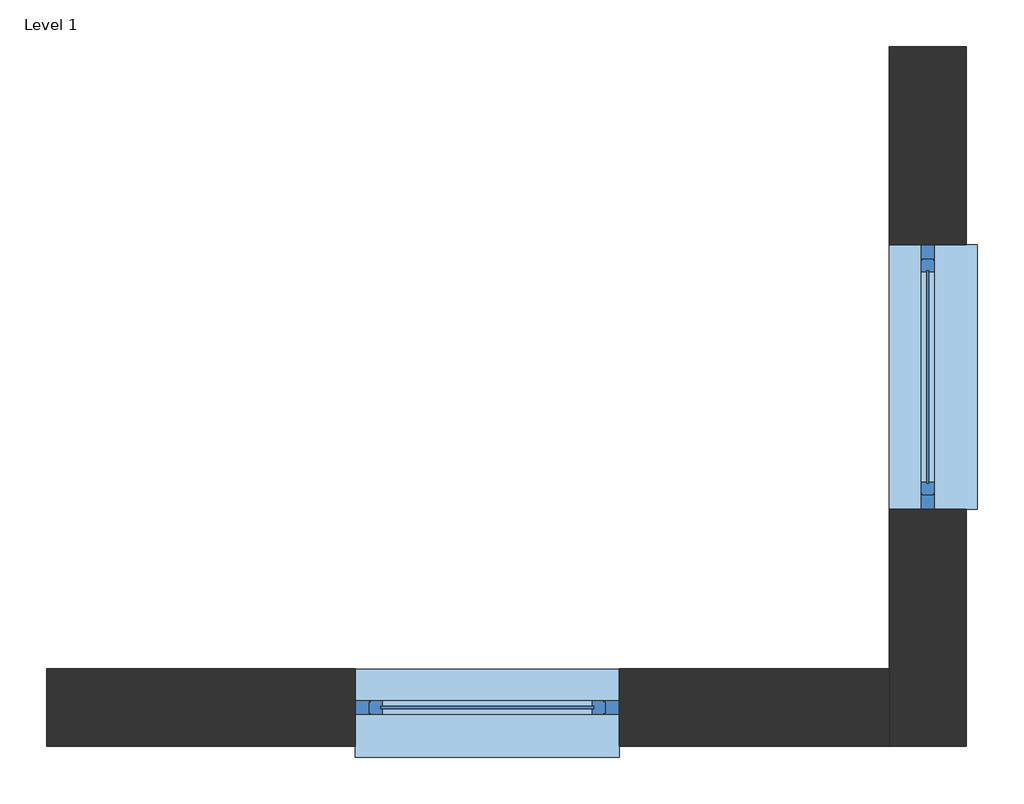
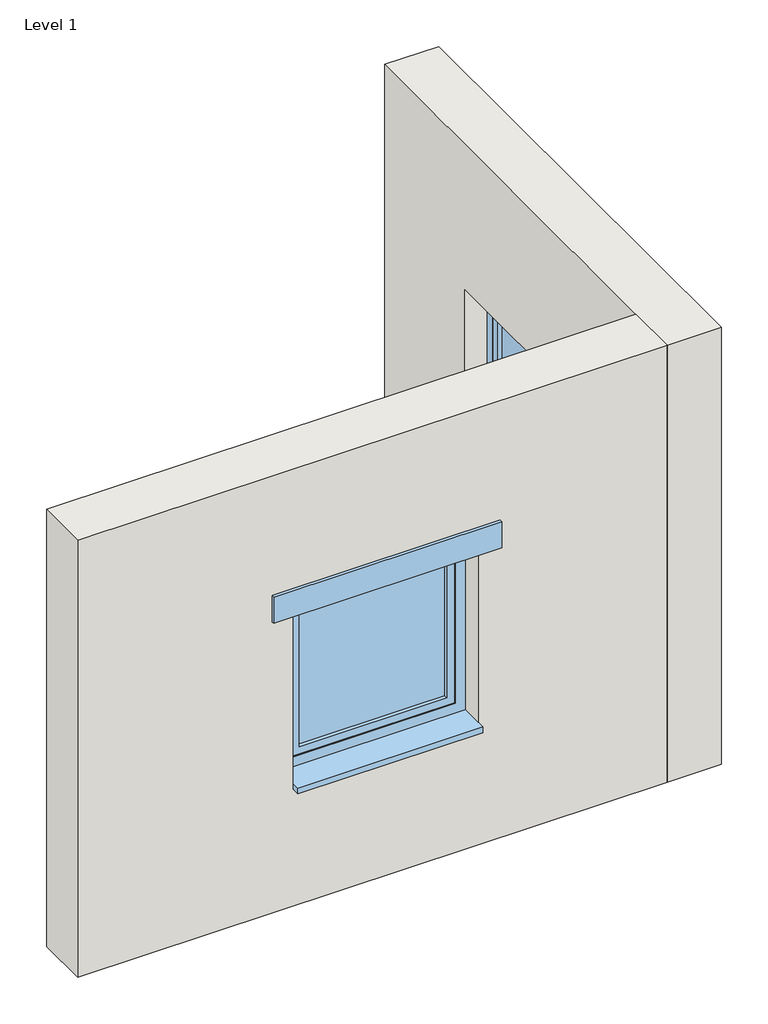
# One storey: 2 walls, 2 windows.
"""IFC4 building model written with IfcOpenShell, lengths in millimetres."""

import ifcopenshell
import ifcopenshell.guid

model = None  # the IFC model being written
_history = None  # IfcOwnerHistory: only IFC2X3 demands one
_inside = {}  # id of a spatial element -> (the spatial element, [elements in it])
_under = {}  # id of a project, library or spatial element -> (it, [spatial elements below it])
_declared = {}  # id of a project -> (the project, [libraries it declares])
_typed = {}  # id of a type object -> (the type object, [elements of that type])
_made_of = {}  # id of a material, layer set ... -> (it, [elements and type objects made of it])


def new_model(schema):
    """Start an empty IFC model of exactly this schema.

    Asked for "IFC4X3", IfcOpenShell would pick the latest addendum, in which some entities
    have other attributes; the version numbers below select the first issue.
    IFC2X3 requires an IfcOwnerHistory on every rooted entity: one is made here for all.
    """
    global model, _history
    if schema == "IFC4X3":
        model = ifcopenshell.file(schema_version=(4, 3, 0, 0))
    else:
        model = ifcopenshell.file(schema=schema)
    _inside.clear()
    _under.clear()
    _declared.clear()
    _typed.clear()
    _made_of.clear()
    _history = None
    if model.schema == "IFC2X3":
        org = make("IfcOrganization", Name="unknown")
        user = make(
            "IfcPersonAndOrganization",
            ThePerson=make("IfcPerson", FamilyName="unknown"),
            TheOrganization=org,
        )
        app = make(
            "IfcApplication",
            ApplicationDeveloper=org,
            Version="unknown",
            ApplicationFullName="unknown",
            ApplicationIdentifier="unknown",
        )
        _history = make(
            "IfcOwnerHistory",
            OwningUser=user,
            OwningApplication=app,
            ChangeAction="ADDED",
            CreationDate=0,
        )
    return model


def make(cls, **values):
    """One entity of the class cls with the attributes given. An attribute that is None is left unset."""
    return model.create_entity(
        cls, **{name: value for name, value in values.items() if value is not None}
    )


def rooted(cls, **values):
    """An entity with a GlobalId (a new one), such as an element, a storey or a relation."""
    return make(cls, GlobalId=ifcopenshell.guid.new(), OwnerHistory=_history, **values)


def si_unit(unit_type, name, prefix=None):
    """IfcSIUnit, for example si_unit("LENGTHUNIT", "METRE", prefix="MILLI")."""
    return make("IfcSIUnit", UnitType=unit_type, Prefix=prefix, Name=name)


def assignment(units):
    """IfcUnitAssignment: the units of a project."""
    return None if units is None else make("IfcUnitAssignment", Units=units)


def point(xyz):
    """IfcCartesianPoint."""
    return None if xyz is None else make("IfcCartesianPoint", Coordinates=xyz)


def direction(xyz):
    """IfcDirection."""
    return None if xyz is None else make("IfcDirection", DirectionRatios=xyz)


def frame(location, z_axis=None, x_axis=None):
    """IfcAxis2Placement3D, a coordinate frame: its origin and axes. An axis left out is left unset."""
    return make(
        "IfcAxis2Placement3D",
        Location=point(location),
        Axis=direction(z_axis),
        RefDirection=direction(x_axis),
    )


def origin():
    """The frame at (0, 0, 0) with its axes left unset."""
    return frame((0.0, 0.0, 0.0))


def place(relative_to, where):
    """IfcLocalPlacement: puts the frame where relative to a parent placement (None: the world)."""
    return make(
        "IfcLocalPlacement", PlacementRelTo=relative_to, RelativePlacement=where
    )


def context(
    kind, dimensions, precision=None, world=None, true_north=None, identifier=None
):
    """IfcGeometricRepresentationContext, for example the 3D "Model" context."""
    return make(
        "IfcGeometricRepresentationContext",
        ContextIdentifier=identifier,
        ContextType=kind,
        CoordinateSpaceDimension=dimensions,
        Precision=precision,
        WorldCoordinateSystem=world,
        TrueNorth=true_north,
    )


def project(units=None, contexts=None):
    """IfcProject with its units and contexts."""
    return rooted(
        "IfcProject",
        Name="project",
        RepresentationContexts=contexts,
        UnitsInContext=assignment(units),
    )


def spatial(cls, under=None, at=None, **own):
    """A site, building, storey or space (cls), placed at a placement, below another one or the project."""
    s = rooted(cls, ObjectPlacement=at, **own)
    if under is not None:
        _under.setdefault(under.id(), (under, []))[1].append(s)
    return s


def polyline(points):
    """IfcPolyline through the points."""
    return make("IfcPolyline", Points=[point(p) for p in points])


def outline(outer, holes=None, kind="AREA"):
    """IfcArbitraryClosedProfileDef: a profile drawn as a closed curve; with holes, ...WithVoids."""
    if holes is None:
        return make("IfcArbitraryClosedProfileDef", ProfileType=kind, OuterCurve=outer)
    return make(
        "IfcArbitraryProfileDefWithVoids",
        ProfileType=kind,
        OuterCurve=outer,
        InnerCurves=holes,
    )


def extrude(swept, where, along, depth):
    """IfcExtrudedAreaSolid: the profile swept, set in the frame where, extruded along a direction by depth."""
    return make(
        "IfcExtrudedAreaSolid",
        SweptArea=swept,
        Position=where,
        ExtrudedDirection=direction(along),
        Depth=depth,
    )


def faces_of(points, faces, orient=None, outer=None):
    """IfcFace entities. A face is a list of loops; a loop is a list of indices into points, from 0.

    orient and outer hold one flag for each loop. By default every Orientation is true, the
    first loop of a face is its IfcFaceOuterBound and the others are IfcFaceBound.
    """
    made = []
    for i, loops in enumerate(faces):
        bounds = []
        for j, loop in enumerate(loops):
            is_outer = j == 0 if outer is None else outer[i][j]
            bounds.append(
                make(
                    "IfcFaceOuterBound" if is_outer else "IfcFaceBound",
                    Bound=make("IfcPolyLoop", Polygon=[points[k] for k in loop]),
                    Orientation=True if orient is None else orient[i][j],
                )
            )
        made.append(make("IfcFace", Bounds=bounds))
    return made


def faceted_brep(points, faces, orient=None, outer=None, voids=None):
    """IfcFacetedBrep: a solid bounded by flat faces; with voids (closed shells), ...WithVoids."""
    shared = [point(p) for p in points]
    hull = make("IfcClosedShell", CfsFaces=faces_of(shared, faces, orient, outer))
    if voids is None:
        return make("IfcFacetedBrep", Outer=hull)
    return make(
        "IfcFacetedBrepWithVoids",
        Outer=hull,
        Voids=[
            make(cls, CfsFaces=faces_of(shared, fs, o, b)) for cls, fs, o, b in voids
        ],
    )


def shape(context_of_items, identifier, shape_type, items):
    """IfcShapeRepresentation: the items that make up one representation, for example the "Body"."""
    return make(
        "IfcShapeRepresentation",
        ContextOfItems=context_of_items,
        RepresentationIdentifier=identifier,
        RepresentationType=shape_type,
        Items=items,
    )


def source(mapping_origin, context_of_items, identifier, shape_type, items):
    """IfcRepresentationMap: a shape defined once, which mapped items show again and again."""
    return make(
        "IfcRepresentationMap",
        MappingOrigin=mapping_origin,
        MappedRepresentation=shape(context_of_items, identifier, shape_type, items),
    )


def transform(
    local_origin,
    x_axis=None,
    y_axis=None,
    z_axis=None,
    scale=None,
    scale2=None,
    scale3=None,
    uniform=True,
):
    """IfcCartesianTransformationOperator3D, or its non-uniform kind. x_axis, y_axis, z_axis: its Axis1, 2, 3."""
    if uniform:
        return make(
            "IfcCartesianTransformationOperator3D",
            Axis1=direction(x_axis),
            Axis2=direction(y_axis),
            LocalOrigin=point(local_origin),
            Scale=scale,
            Axis3=direction(z_axis),
        )
    return make(
        "IfcCartesianTransformationOperator3DnonUniform",
        Axis1=direction(x_axis),
        Axis2=direction(y_axis),
        LocalOrigin=point(local_origin),
        Scale=scale,
        Axis3=direction(z_axis),
        Scale2=scale2,
        Scale3=scale3,
    )


def mapped(mapping_source, mapping_target):
    """IfcMappedItem: shows the shape of a source again, moved by a transform."""
    return make(
        "IfcMappedItem", MappingSource=mapping_source, MappingTarget=mapping_target
    )


def made_of(thing, what):
    """Note that an element or type object is made of a material, layer set ...; save() writes the relation."""
    if what is not None:
        _made_of.setdefault(what.id(), (what, []))[1].append(thing)
    return thing


def element(
    cls,
    number,
    at=None,
    inside=None,
    cuts=None,
    type_object=None,
    material=None,
    context=None,
    identifier="Body",
    shape_type=None,
    held_by="IfcProductDefinitionShape",
    body=None,
    shapes=None,
    **own,
):
    """One element of the class cls, such as IfcWall. Its Tag is "e" and its number.

    at: its placement. inside: the storey or other place that contains it. cuts: it is an
    opening in that element (IfcRelVoidsElement). A single representation is given by context,
    identifier, shape_type and body (its items); several are given by shapes. held_by: the class
    of the entity that holds the representations. save() writes the other relations.
    """
    e = rooted(cls, Tag="e%d" % number, ObjectPlacement=at, **own)
    if body is not None:
        shapes = [shape(context, identifier, shape_type, body)]
    if shapes is not None:
        e.Representation = make(held_by, Representations=shapes)
    if inside is not None:
        _inside.setdefault(inside.id(), (inside, []))[1].append(e)
    if cuts is not None:
        rooted(
            "IfcRelVoidsElement", RelatingBuildingElement=cuts, RelatedOpeningElement=e
        )
    if type_object is not None:
        _typed.setdefault(type_object.id(), (type_object, []))[1].append(e)
    return made_of(e, material)


def aggregate(whole, parts):
    """IfcRelAggregates: a whole, such as a stair, and the parts it consists of."""
    return rooted("IfcRelAggregates", RelatingObject=whole, RelatedObjects=parts)


def save(model, path):
    """Write the relations noted so far, then the file.

    IfcRelAggregates (storeys below a building ...), IfcRelContainedInSpatialStructure (elements
    in a storey), IfcRelDefinesByType, IfcRelAssociatesMaterial and IfcRelDeclares: one each for
    every whole, place, type object, material and project.
    """
    for whole, parts in _under.values():
        aggregate(whole, parts)
    for where, things in _inside.values():
        rooted(
            "IfcRelContainedInSpatialStructure",
            RelatedElements=things,
            RelatingStructure=where,
        )
    for kind, things in _typed.values():
        rooted("IfcRelDefinesByType", RelatedObjects=things, RelatingType=kind)
    for what, things in _made_of.values():
        rooted("IfcRelAssociatesMaterial", RelatedObjects=things, RelatingMaterial=what)
    for by, libraries in _declared.values():
        rooted("IfcRelDeclares", RelatingContext=by, RelatedDefinitions=libraries)
    model.write(path)


def unit_16_window_1200_x_1200mm_0c9d717d(model_context):
    return source(origin(), model_context, "Body", "SolidModel", [
        extrude(outline(polyline([(482.4540566, 5.0), (482.4540566, -5.0), (-482.4540566, -5.0), (-482.4540566, 5.0), (482.4540566, 5.0)])), frame((0.0, 0.0, 957.5459434), z_axis=(0.0, 0.0, 1.0), x_axis=(1.0, 0.0, 0.0)), (0.0, 0.0, 1.0), 924.9081133),
        faceted_brep([(-527.4540566, 30.0, 1927.4540566), (-527.4540566, 25.0, 1927.4540566), (527.4540566, 25.0, 1927.4540566), (527.4540566, 30.0, 1927.4540566), (-477.4540566, 5.0, 1877.4540566), (-477.4540566, 30.0, 1877.4540566), (477.4540566, 30.0, 1877.4540566), (477.4540566, 5.0, 1877.4540566), (-482.4540566, -5.0, 1882.4540566), (-482.4540566, 5.0, 1882.4540566), (482.4540566, 5.0, 1882.4540566), (482.4540566, -5.0, 1882.4540566), (-477.4540566, -30.0, 1877.4540566), (-477.4540566, -5.0, 1877.4540566), (477.4540566, -5.0, 1877.4540566), (477.4540566, -30.0, 1877.4540566), (-527.4540566, -25.0, 1927.4540566), (-527.4540566, -30.0, 1927.4540566), (527.4540566, -30.0, 1927.4540566), (527.4540566, -25.0, 1927.4540566), (-534.8200453, 25.0, 1934.8200453), (-534.8200453, -25.0, 1934.8200453), (534.8200453, -25.0, 1934.8200453), (534.8200453, 25.0, 1934.8200453), (527.4540566, 25.0, 912.5459434), (527.4540566, 30.0, 912.5459434), (477.4540566, 30.0, 962.5459434), (477.4540566, 5.0, 962.5459434), (482.4540566, 5.0, 957.5459434), (482.4540566, -5.0, 957.5459434), (477.4540566, -5.0, 962.5459434), (477.4540566, -30.0, 962.5459434), (527.4540566, -30.0, 912.5459434), (527.4540566, -25.0, 912.5459434), (534.8200453, -25.0, 905.1799547), (534.8200453, 25.0, 905.1799547), (-527.4540566, 25.0, 912.5459434), (-527.4540566, 30.0, 912.5459434), (-477.4540566, 30.0, 962.5459434), (-477.4540566, 5.0, 962.5459434), (-482.4540566, 5.0, 957.5459434), (-482.4540566, -5.0, 957.5459434), (-477.4540566, -5.0, 962.5459434), (-477.4540566, -30.0, 962.5459434), (-527.4540566, -30.0, 912.5459434), (-527.4540566, -25.0, 912.5459434), (-534.8200453, -25.0, 905.1799547), (-534.8200453, 25.0, 905.1799547)], [[[0, 1, 2, 3]], [[4, 5, 6, 7]], [[8, 9, 10, 11]], [[12, 13, 14, 15]], [[16, 17, 18, 19]], [[20, 21, 22, 23]], [[3, 2, 24, 25]], [[7, 6, 26, 27]], [[11, 10, 28, 29]], [[15, 14, 30, 31]], [[19, 18, 32, 33]], [[23, 22, 34, 35]], [[25, 24, 36, 37]], [[27, 26, 38, 39]], [[29, 28, 40, 41]], [[31, 30, 42, 43]], [[33, 32, 44, 45]], [[35, 34, 46, 47]], [[37, 36, 1, 0]], [[3, 25, 37, 0], [5, 38, 26, 6]], [[39, 38, 5, 4]], [[9, 40, 28, 10], [7, 27, 39, 4]], [[41, 40, 9, 8]], [[11, 29, 41, 8], [13, 42, 30, 14]], [[43, 42, 13, 12]], [[17, 44, 32, 18], [15, 31, 43, 12]], [[45, 44, 17, 16]], [[21, 46, 34, 22], [19, 33, 45, 16]], [[47, 46, 21, 20]], [[23, 35, 47, 20], [1, 36, 24, 2]]]),
        extrude(outline(polyline([(2000.0, -600.0), (840.0, -600.0), (840.0, 600.0), (2000.0, 600.0), (2000.0, -600.0)]), holes=[polyline([(1934.8200453, 534.8200453), (905.1799547, 534.8200453), (905.1799547, -534.8200453), (1934.8200453, -534.8200453), (1934.8200453, 534.8200453)])]), frame((0.0, -30.0, 0.0), z_axis=(0.0, 1.0, 0.0), x_axis=(0.0, 0.0, 1.0)), (0.0, 0.0, 1.0), 60.0),
        extrude(outline(polyline([(740.0, 175.0), (-740.0, 175.0), (-740.0, 195.0), (740.0, 195.0), (740.0, 175.0)])), frame((0.0, 0.0, 2000.0), z_axis=(0.0, 0.0, 1.0), x_axis=(1.0, 0.0, 0.0)), (0.0, 0.0, 1.0), 180.0),
        extrude(outline(polyline([(600.0, 225.0), (600.0, -175.0), (-600.0, -175.0), (-600.0, 225.0), (600.0, 225.0)])), frame((0.0, 0.0, 800.0), z_axis=(0.0, 0.0, 1.0), x_axis=(1.0, 0.0, 0.0)), (0.0, 0.0, 1.0), 40.0),
    ])


model = new_model("IFC4")

# Units and contexts
model_context = context("Model", 3, world=origin())
ifc_project = project(units=[si_unit("LENGTHUNIT", "METRE", prefix="MILLI")], contexts=[model_context])

# Site, building, storey
site = spatial("IfcSite", under=ifc_project)
building = spatial("IfcBuilding", under=site)
storey = spatial("IfcBuildingStorey", under=building, Name="Level 1", Elevation=0.0)

# Walls
placement = place(None, origin())
element("IfcWall", 1, ObjectType="Exterior - Brick on Mtl. Stud", at=placement, inside=storey, context=model_context, shape_type="SweptSolid", body=[
    extrude(outline(polyline([(0.0, 265.0823573), (3000.0, 265.0823573), (3000.0, -3559.9176427), (0.0, -3559.9176427), (0.0, 265.0823573)]), holes=[polyline([(800.0, -959.9176427), (800.0, -2159.9176427), (2000.0, -2159.9176427), (2000.0, -959.9176427), (800.0, -959.9176427)])]), frame((0.0, 485.8832827, 0.0), z_axis=(0.0, 1.0, 0.0), x_axis=(0.0, 0.0, 1.0)), (0.0, 0.0, 1.0), 350.0),
])
element("IfcWall", 2, ObjectType="Exterior - Brick on Mtl. Stud", at=placement, inside=storey, context=model_context, shape_type="Brep", body=[
    faceted_brep([(265.0823573, 3660.8832827, 0.0), (265.0823573, 835.8832827, 0.0), (265.0823573, 485.8832827, 0.0), (265.0823573, 485.8832827, 3000.0), (265.0823573, 835.8832827, 3000.0), (265.0823573, 3660.8832827, 3000.0), (265.0823573, 2760.8832827, 800.0), (265.0823573, 2760.8832827, 2000.0), (265.0823573, 1560.8832827, 2000.0), (265.0823573, 1560.8832827, 800.0), (615.0823573, 3660.8832827, 0.0), (615.0823573, 3660.8832827, 3000.0), (615.0823573, 485.8832827, 3000.0), (615.0823573, 485.8832827, 0.0), (615.0823573, 2760.8832827, 800.0), (615.0823573, 1560.8832827, 800.0), (615.0823573, 1560.8832827, 2000.0), (615.0823573, 2760.8832827, 2000.0)], [[[0, 1, 2, 3, 4, 5], [6, 7, 8, 9]], [[10, 11, 12, 13], [14, 15, 16, 17]], [[2, 1, 0, 10, 13]], [[5, 4, 3, 12, 11]], [[0, 5, 11, 10]], [[3, 2, 13, 12]], [[7, 6, 14, 17]], [[8, 7, 17, 16]], [[9, 8, 16, 15]], [[6, 9, 15, 14]]]),
])

# Windows
unit_16_window_1200_x_1200mm_shape = unit_16_window_1200_x_1200mm_0c9d717d(model_context)
element("IfcWindow", 3, ObjectType="Unit 16 Window : 1200 x 1200mm", at=placement, inside=storey, context=model_context, shape_type="MappedRepresentation", body=[
    mapped(unit_16_window_1200_x_1200mm_shape, transform((-1559.9176427, 660.8832827, 0.0), x_axis=(-0.9999999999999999, 0.0, 0.0), y_axis=(0.0, -0.9999999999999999, 0.0), z_axis=(0.0, 0.0, 1.0))),
])
element("IfcWindow", 4, ObjectType="Unit 16 Window : 1200 x 1200mm", at=placement, inside=storey, context=model_context, shape_type="MappedRepresentation", body=[
    mapped(unit_16_window_1200_x_1200mm_shape, transform((440.0823573, 2160.8832827, 0.0), x_axis=(0.0, -1.0, 0.0), y_axis=(1.0, 0.0, 0.0), z_axis=(0.0, 0.0, 1.0))),
])

save(model, "model.ifc")
